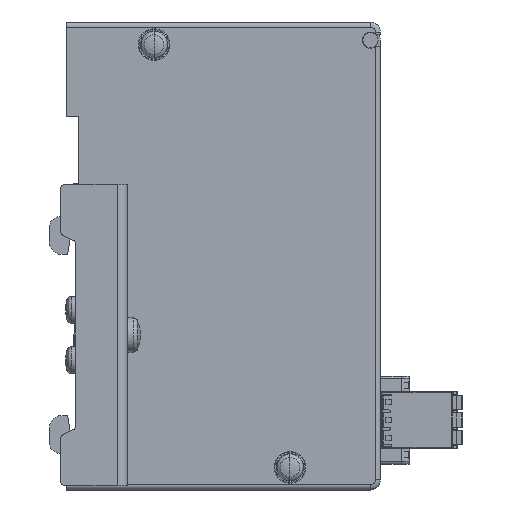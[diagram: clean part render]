
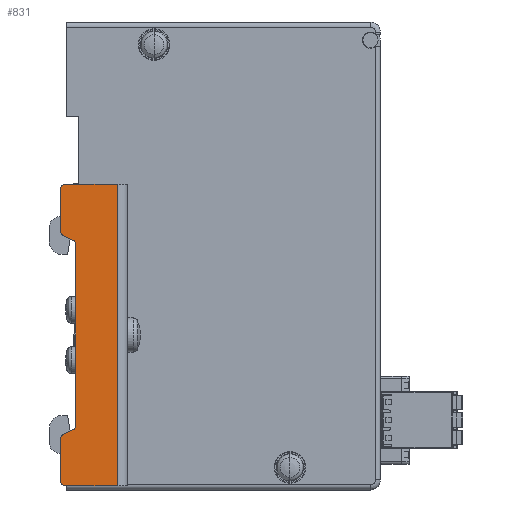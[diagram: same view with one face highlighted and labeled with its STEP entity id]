
A CAD part, left-side view. The second image highlights one B-rep face of the part: STEP entity #831.
In plain terms, the highlighted planar face has unit normal (-1, 0, 0).
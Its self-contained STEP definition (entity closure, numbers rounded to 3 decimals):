
#831=ADVANCED_FACE('',(#8118),#8117,.T.);
#8117=PLANE('',#13876);
#8118=FACE_OUTER_BOUND('',#13877,.T.);
#13873=CARTESIAN_POINT('',(-13.,-3.37,-36.));
#13874=DIRECTION('',(-1.,0.,0.));
#13875=DIRECTION('',(0.,-1.,0.));
#13876=AXIS2_PLACEMENT_3D('',#13873,#13874,#13875);
#13877=EDGE_LOOP('',(#18381,#18382,#18383,#18384,#18385,#18386,#18387,#18388,#18389,#18390,#18391,#18392,#18393,#18394));
#18381=ORIENTED_EDGE('',*,*,#20906,.F.);
#18382=ORIENTED_EDGE('',*,*,#20907,.T.);
#18383=ORIENTED_EDGE('',*,*,#20908,.T.);
#18384=ORIENTED_EDGE('',*,*,#20909,.T.);
#18385=ORIENTED_EDGE('',*,*,#20910,.F.);
#18386=ORIENTED_EDGE('',*,*,#20911,.T.);
#18387=ORIENTED_EDGE('',*,*,#20912,.T.);
#18388=ORIENTED_EDGE('',*,*,#20913,.T.);
#18389=ORIENTED_EDGE('',*,*,#20914,.T.);
#18390=ORIENTED_EDGE('',*,*,#20915,.T.);
#18391=ORIENTED_EDGE('',*,*,#20916,.T.);
#18392=ORIENTED_EDGE('',*,*,#20917,.F.);
#18393=ORIENTED_EDGE('',*,*,#20918,.T.);
#18394=ORIENTED_EDGE('',*,*,#20919,.F.);
#20906=EDGE_CURVE('',#33476,#33477,#33478,.T.);
#20907=EDGE_CURVE('',#33476,#33484,#33485,.T.);
#20908=EDGE_CURVE('',#33484,#33491,#33492,.T.);
#20909=EDGE_CURVE('',#33491,#33498,#33499,.T.);
#20910=EDGE_CURVE('',#33505,#33498,#33506,.T.);
#20911=EDGE_CURVE('',#33505,#33512,#33513,.T.);
#20912=EDGE_CURVE('',#33512,#33519,#33520,.T.);
#20913=EDGE_CURVE('',#33519,#33526,#33527,.T.);
#20914=EDGE_CURVE('',#33526,#33533,#33534,.T.);
#20915=EDGE_CURVE('',#33533,#33540,#33541,.T.);
#20916=EDGE_CURVE('',#33540,#33547,#33548,.T.);
#20917=EDGE_CURVE('',#33554,#33547,#33555,.T.);
#20918=EDGE_CURVE('',#33554,#33561,#33562,.T.);
#20919=EDGE_CURVE('',#33477,#33561,#33568,.T.);
#33476=VERTEX_POINT('',#42895);
#33477=VERTEX_POINT('',#42896);
#33478=LINE('',#42897,#42898);
#33484=VERTEX_POINT('',#42900);
#33485=CIRCLE('',#42904,1.);
#33491=VERTEX_POINT('',#42905);
#33492=LINE('',#42906,#42907);
#33498=VERTEX_POINT('',#42909);
#33499=CIRCLE('',#42913,1.);
#33505=VERTEX_POINT('',#42914);
#33506=LINE('',#42915,#42916);
#33512=VERTEX_POINT('',#42918);
#33513=LINE('',#42919,#42920);
#33519=VERTEX_POINT('',#42922);
#33520=LINE('',#42923,#42924);
#33526=VERTEX_POINT('',#42926);
#33527=CIRCLE('',#42930,1.);
#33533=VERTEX_POINT('',#42931);
#33534=LINE('',#42932,#42933);
#33540=VERTEX_POINT('',#42935);
#33541=CIRCLE('',#42939,1.);
#33547=VERTEX_POINT('',#42940);
#33548=LINE('',#42941,#42942);
#33554=VERTEX_POINT('',#42944);
#33555=CIRCLE('',#42948,1.);
#33561=VERTEX_POINT('',#42949);
#33562=LINE('',#42950,#42951);
#33568=CIRCLE('',#42956,1.);
#42895=CARTESIAN_POINT('',(-13.,-5.077,-19.73));
#42896=CARTESIAN_POINT('',(-13.,-6.923,-18.869));
#42897=CARTESIAN_POINT('',(-13.,-5.077,-19.73));
#42898=VECTOR('',#42899,2.036);
#42899=DIRECTION('',(0.,-0.906,0.423));
#42900=CARTESIAN_POINT('',(-13.,-4.5,-20.636));
#42901=CARTESIAN_POINT('',(-13.,-5.5,-20.636));
#42902=DIRECTION('',(-1.,0.,0.));
#42903=DIRECTION('',(0.,0.,1.));
#42904=AXIS2_PLACEMENT_3D('',#42901,#42902,#42903);
#42905=CARTESIAN_POINT('',(-13.,-4.5,-29.));
#42906=CARTESIAN_POINT('',(-13.,-4.5,-20.636));
#42907=VECTOR('',#42908,8.364);
#42908=DIRECTION('',(0.,0.,-1.));
#42909=CARTESIAN_POINT('',(-13.,-5.5,-30.));
#42910=CARTESIAN_POINT('',(-13.,-5.5,-29.));
#42911=DIRECTION('',(-1.,0.,0.));
#42912=DIRECTION('',(0.,0.,1.));
#42913=AXIS2_PLACEMENT_3D('',#42910,#42911,#42912);
#42914=CARTESIAN_POINT('',(-13.,-15.8,-30.));
#42915=CARTESIAN_POINT('',(-13.,-15.8,-30.));
#42916=VECTOR('',#42917,10.3);
#42917=DIRECTION('',(0.,1.,0.));
#42918=CARTESIAN_POINT('',(-13.,-15.8,30.));
#42919=CARTESIAN_POINT('',(-13.,-15.8,-30.));
#42920=VECTOR('',#42921,60.);
#42921=DIRECTION('',(0.,0.,1.));
#42922=CARTESIAN_POINT('',(-13.,-5.5,30.));
#42923=CARTESIAN_POINT('',(-13.,-15.8,30.));
#42924=VECTOR('',#42925,10.3);
#42925=DIRECTION('',(0.,1.,0.));
#42926=CARTESIAN_POINT('',(-13.,-4.5,29.));
#42927=CARTESIAN_POINT('',(-13.,-5.5,29.));
#42928=DIRECTION('',(-1.,0.,0.));
#42929=DIRECTION('',(0.,0.,1.));
#42930=AXIS2_PLACEMENT_3D('',#42927,#42928,#42929);
#42931=CARTESIAN_POINT('',(-13.,-4.5,20.636));
#42932=CARTESIAN_POINT('',(-13.,-4.5,29.));
#42933=VECTOR('',#42934,8.364);
#42934=DIRECTION('',(0.,0.,-1.));
#42935=CARTESIAN_POINT('',(-13.,-5.077,19.73));
#42936=CARTESIAN_POINT('',(-13.,-5.5,20.636));
#42937=DIRECTION('',(-1.,0.,0.));
#42938=DIRECTION('',(0.,0.,1.));
#42939=AXIS2_PLACEMENT_3D('',#42936,#42937,#42938);
#42940=CARTESIAN_POINT('',(-13.,-6.923,18.869));
#42941=CARTESIAN_POINT('',(-13.,-5.077,19.73));
#42942=VECTOR('',#42943,2.036);
#42943=DIRECTION('',(0.,-0.906,-0.423));
#42944=CARTESIAN_POINT('',(-13.,-7.5,17.963));
#42945=CARTESIAN_POINT('',(-13.,-6.5,17.963));
#42946=DIRECTION('',(-1.,0.,0.));
#42947=DIRECTION('',(0.,0.,1.));
#42948=AXIS2_PLACEMENT_3D('',#42945,#42946,#42947);
#42949=CARTESIAN_POINT('',(-13.,-7.5,-17.963));
#42950=CARTESIAN_POINT('',(-13.,-7.5,17.963));
#42951=VECTOR('',#42952,35.926);
#42952=DIRECTION('',(0.,0.,-1.));
#42953=CARTESIAN_POINT('',(-13.,-6.5,-17.963));
#42954=DIRECTION('',(-1.,0.,0.));
#42955=DIRECTION('',(0.,0.,1.));
#42956=AXIS2_PLACEMENT_3D('',#42953,#42954,#42955);
